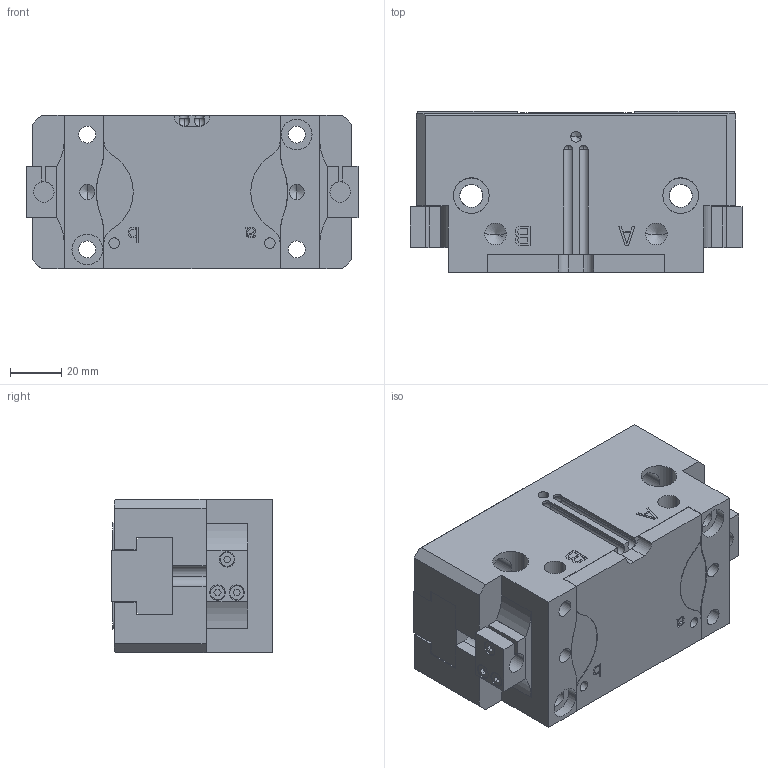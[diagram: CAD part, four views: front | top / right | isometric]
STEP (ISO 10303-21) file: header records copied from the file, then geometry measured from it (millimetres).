
FILE_DESCRIPTION (( 'STEP AP214' ), '1' );
FILE_NAME ('FPT-125A-1.STEP', '2020-07-06T07:52:39', ( '' ), ( '' ), 'SwSTEP 2.0', 'SolidWorks 2016', '' );
FILE_SCHEMA (( 'AUTOMOTIVE_DESIGN' ));
Length unit declared in the file: millimetre
Products named in the file (6): NAUO3; NAUO8; NAUO4; NAUO1; NAUO2; FPT-125A-1
Assembly tree (7 placements, depth 2):
  FPT-125A-1
    NAUO1
    NAUO2
    NAUO3
    NAUO4  x2
    NAUO8  x2
Bounding box: 130 x 63 x 60 mm (x, y, z)
Volume: 393912.2 mm3; surface area: 90322.9 mm2
Topology: 7 solids, 7 shells, 616 faces, 1638 edges, 1058 vertices
Faces by surface type: plane 367, cylinder 185, cone 60, sphere 4
Entity records: 17196 total; most frequent: CARTESIAN_POINT 3537, DIRECTION 2796, ORIENTED_EDGE 2764, EDGE_CURVE 1382, LINE 994, VECTOR 994, VERTEX_POINT 920, AXIS2_PLACEMENT_3D 901
